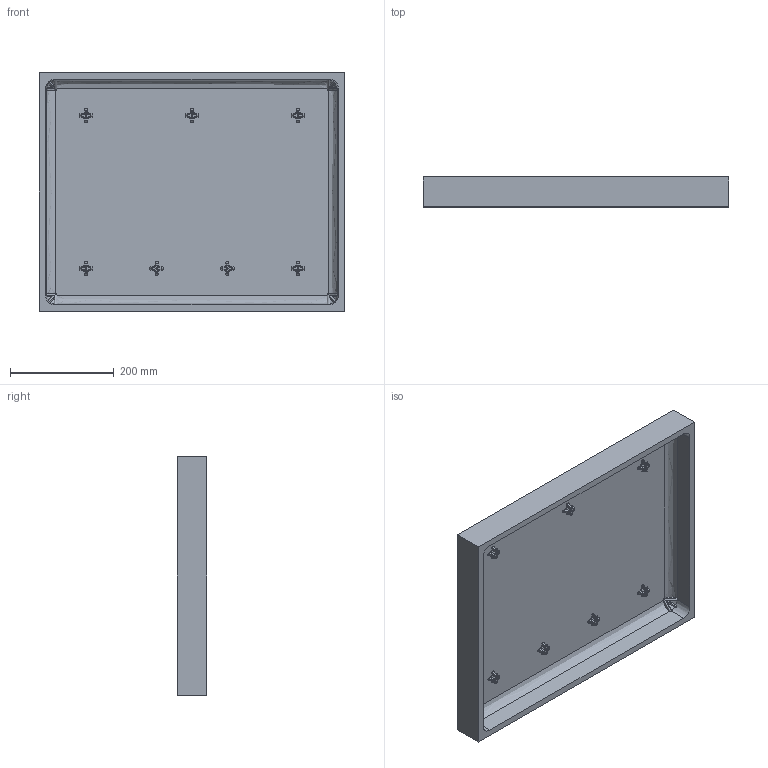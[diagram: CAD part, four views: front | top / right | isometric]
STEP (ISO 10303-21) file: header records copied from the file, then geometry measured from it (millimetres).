
FILE_DESCRIPTION (( 'STEP AP214' ), '1' );
FILE_NAME ('1622-931F Top PID 6-04-2026.STEP', '2026-06-05T18:39:56', ( '' ), ( '' ), 'SwSTEP 2.0', 'SolidWorks 2025', '' );
FILE_SCHEMA (( 'AUTOMOTIVE_DESIGN' ));
Length unit declared in the file: inch
Products named in the file (1): 1622-931F Top PID 6-04-2026
Bounding box: 588.38 x 57.3 x 459.73 mm (x, y, z)
Volume: 3283264.1 mm3; surface area: 751002.9 mm2
Topology: 1 solids, 1 shells, 843 faces, 1914 edges, 1088 vertices
Faces by surface type: bspline 738, plane 105
Entity records: 35405 total; most frequent: CARTESIAN_POINT 24022, ORIENTED_EDGE 3828, EDGE_CURVE 1914, VERTEX_POINT 1088, EDGE_LOOP 858, ADVANCED_FACE 843, FACE_OUTER_BOUND 843, B_SPLINE_CURVE_WITH_KNOTS 574
